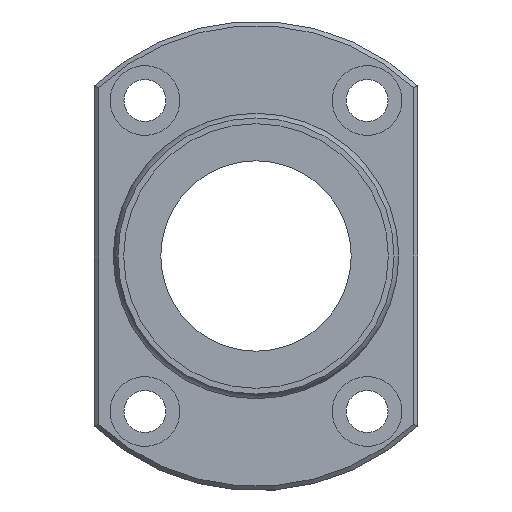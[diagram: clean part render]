
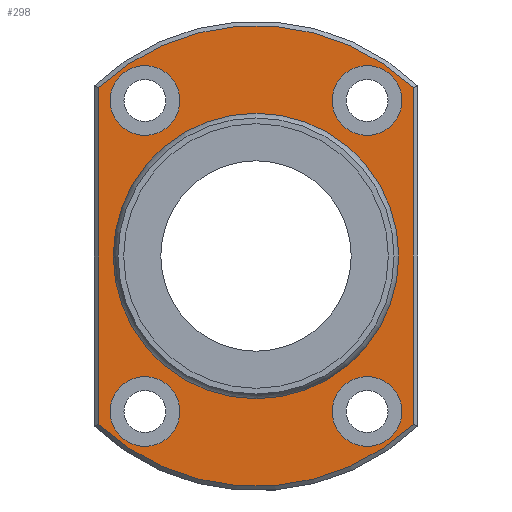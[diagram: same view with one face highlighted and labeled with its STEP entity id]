
A CAD part, left-side view. The second image highlights one B-rep face of the part: STEP entity #298.
In plain terms, the highlighted planar face has unit normal (-1, 0, 0).
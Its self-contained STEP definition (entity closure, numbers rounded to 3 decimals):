
#59=CARTESIAN_POINT('',(56.,-24.8,26.508));
#60=VERTEX_POINT('',#59);
#68=CARTESIAN_POINT('',(56.,-24.8,-26.508));
#69=VERTEX_POINT('',#68);
#70=CARTESIAN_POINT('',(56.,-24.8,26.508));
#71=DIRECTION('',(0.0,0.0,-1.0));
#72=VECTOR('',#71,53.015);
#73=LINE('',#70,#72);
#74=EDGE_CURVE('',#60,#69,#73,.T.);
#101=CARTESIAN_POINT('',(56.,24.8,-26.508));
#102=VERTEX_POINT('',#101);
#103=CARTESIAN_POINT('',(56.,0.0,0.0));
#104=DIRECTION('',(1.0,0.0,0.0));
#105=DIRECTION('',(0.0,0.0,-1.0));
#106=AXIS2_PLACEMENT_3D('',#103,#104,#105);
#107=CIRCLE('',#106,36.3);
#108=EDGE_CURVE('',#69,#102,#107,.T.);
#134=CARTESIAN_POINT('',(56.,24.8,26.508));
#135=VERTEX_POINT('',#134);
#136=CARTESIAN_POINT('',(56.,24.8,-26.508));
#137=DIRECTION('',(0.0,0.0,1.0));
#138=VECTOR('',#137,53.015);
#139=LINE('',#136,#138);
#140=EDGE_CURVE('',#102,#135,#139,.T.);
#165=CARTESIAN_POINT('',(56.,0.0,0.0));
#166=DIRECTION('',(1.0,0.0,0.0));
#167=DIRECTION('',(0.0,0.0,1.0));
#168=AXIS2_PLACEMENT_3D('',#165,#166,#167);
#169=CIRCLE('',#168,36.3);
#170=EDGE_CURVE('',#135,#60,#169,.T.);
#232=CARTESIAN_POINT('',(56.,0.0,29.563));
#233=DIRECTION('',(-1.0,0.0,0.0));
#234=DIRECTION('',(0.0,0.0,1.0));
#235=AXIS2_PLACEMENT_3D('',#232,#233,#234);
#236=PLANE('',#235);
#237=ORIENTED_EDGE('',*,*,#74,.F.);
#238=ORIENTED_EDGE('',*,*,#170,.F.);
#239=ORIENTED_EDGE('',*,*,#140,.F.);
#240=ORIENTED_EDGE('',*,*,#108,.F.);
#241=EDGE_LOOP('',(#237,#238,#239,#240));
#242=FACE_OUTER_BOUND('',#241,.T.);
#243=CARTESIAN_POINT('',(56.,0.0,22.127));
#244=VERTEX_POINT('',#243);
#245=CARTESIAN_POINT('',(56.,0.0,0.0));
#246=DIRECTION('',(-1.0,0.0,0.0));
#247=DIRECTION('',(0.0,0.0,1.0));
#248=AXIS2_PLACEMENT_3D('',#245,#246,#247);
#249=CIRCLE('',#248,22.127);
#250=EDGE_CURVE('',#244,#244,#249,.T.);
#251=ORIENTED_EDGE('',*,*,#250,.F.);
#252=EDGE_LOOP('',(#251));
#253=FACE_BOUND('',#252,.T.);
#254=CARTESIAN_POINT('',(56.,-12.,-24.5));
#255=VERTEX_POINT('',#254);
#256=CARTESIAN_POINT('',(56.,-17.5,-24.5));
#257=DIRECTION('',(1.0,0.0,0.0));
#258=DIRECTION('',(0.0,1.0,0.0));
#259=AXIS2_PLACEMENT_3D('',#256,#257,#258);
#260=CIRCLE('',#259,5.5);
#261=EDGE_CURVE('',#255,#255,#260,.T.);
#262=ORIENTED_EDGE('',*,*,#261,.T.);
#263=EDGE_LOOP('',(#262));
#264=FACE_BOUND('',#263,.T.);
#265=CARTESIAN_POINT('',(56.,-12.,24.5));
#266=VERTEX_POINT('',#265);
#267=CARTESIAN_POINT('',(56.,-17.5,24.5));
#268=DIRECTION('',(1.0,0.0,0.0));
#269=DIRECTION('',(0.0,1.0,0.0));
#270=AXIS2_PLACEMENT_3D('',#267,#268,#269);
#271=CIRCLE('',#270,5.5);
#272=EDGE_CURVE('',#266,#266,#271,.T.);
#273=ORIENTED_EDGE('',*,*,#272,.T.);
#274=EDGE_LOOP('',(#273));
#275=FACE_BOUND('',#274,.T.);
#276=CARTESIAN_POINT('',(56.,23.,-24.5));
#277=VERTEX_POINT('',#276);
#278=CARTESIAN_POINT('',(56.,17.5,-24.5));
#279=DIRECTION('',(1.0,0.0,0.0));
#280=DIRECTION('',(0.0,1.0,0.0));
#281=AXIS2_PLACEMENT_3D('',#278,#279,#280);
#282=CIRCLE('',#281,5.5);
#283=EDGE_CURVE('',#277,#277,#282,.T.);
#284=ORIENTED_EDGE('',*,*,#283,.T.);
#285=EDGE_LOOP('',(#284));
#286=FACE_BOUND('',#285,.T.);
#287=CARTESIAN_POINT('',(56.,23.,24.5));
#288=VERTEX_POINT('',#287);
#289=CARTESIAN_POINT('',(56.,17.5,24.5));
#290=DIRECTION('',(1.0,0.0,0.0));
#291=DIRECTION('',(0.0,1.0,0.0));
#292=AXIS2_PLACEMENT_3D('',#289,#290,#291);
#293=CIRCLE('',#292,5.5);
#294=EDGE_CURVE('',#288,#288,#293,.T.);
#295=ORIENTED_EDGE('',*,*,#294,.T.);
#296=EDGE_LOOP('',(#295));
#297=FACE_BOUND('',#296,.T.);
#298=ADVANCED_FACE('',(#242,#253,#264,#275,#286,#297),#236,.T.);
